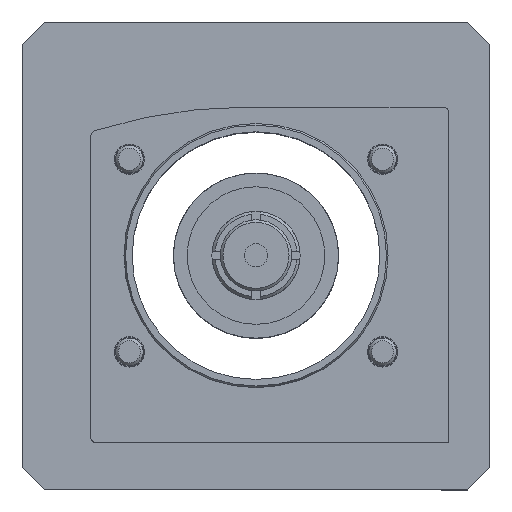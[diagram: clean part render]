
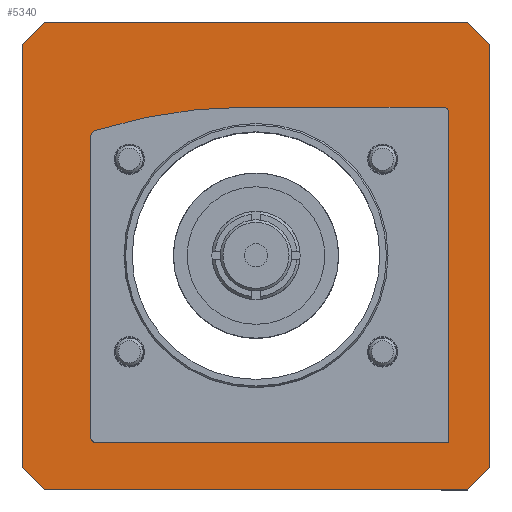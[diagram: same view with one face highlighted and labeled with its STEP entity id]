
A CAD part, top view. The second image highlights one B-rep face of the part: STEP entity #5340.
In plain terms, the highlighted planar face has unit normal (0, 0, 1).
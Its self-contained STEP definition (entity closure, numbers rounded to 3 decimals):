
#474=LINE($,#10865,#689);
#478=LINE($,#10873,#693);
#481=LINE($,#10889,#696);
#482=LINE($,#10891,#697);
#483=LINE($,#10893,#698);
#484=LINE($,#10895,#699);
#485=LINE($,#10897,#700);
#486=LINE($,#10898,#701);
#689=VECTOR($,#7469,5.657);
#693=VECTOR($,#7475,77.);
#696=VECTOR($,#7490,77.);
#697=VECTOR($,#7491,5.657);
#698=VECTOR($,#7492,77.);
#699=VECTOR($,#7493,5.657);
#700=VECTOR($,#7494,77.);
#701=VECTOR($,#7495,5.657);
#830=PLANE($,#6010);
#1022=FACE_BOUND($,#1767,.T.);
#1023=FACE_BOUND($,#1768,.T.);
#1024=FACE_BOUND($,#1769,.T.);
#1025=FACE_BOUND($,#1770,.T.);
#1026=FACE_BOUND($,#1771,.T.);
#1027=FACE_BOUND($,#1772,.T.);
#1767=EDGE_LOOP($,(#4720));
#1768=EDGE_LOOP($,(#4721));
#1769=EDGE_LOOP($,(#4722));
#1770=EDGE_LOOP($,(#4723));
#1771=EDGE_LOOP($,(#4724));
#1772=EDGE_LOOP($,(#4725,#4726,#4727,#4728,#4729,#4730,#4731,#4732));
#2193=CIRCLE($,#6011,24.289);
#2194=CIRCLE($,#6012,2.75);
#2195=CIRCLE($,#6013,2.75);
#2196=CIRCLE($,#6014,2.75);
#2197=CIRCLE($,#6015,2.75);
#2647=VERTEX_POINT($,#10863);
#2648=VERTEX_POINT($,#10864);
#2651=VERTEX_POINT($,#10872);
#2653=VERTEX_POINT($,#10878);
#2654=VERTEX_POINT($,#10880);
#2655=VERTEX_POINT($,#10882);
#2656=VERTEX_POINT($,#10884);
#2657=VERTEX_POINT($,#10886);
#2658=VERTEX_POINT($,#10888);
#2659=VERTEX_POINT($,#10890);
#2660=VERTEX_POINT($,#10892);
#2661=VERTEX_POINT($,#10894);
#2662=VERTEX_POINT($,#10896);
#3359=EDGE_CURVE($,#2647,#2648,#474,.T.);
#3363=EDGE_CURVE($,#2648,#2651,#478,.T.);
#3366=EDGE_CURVE($,#2653,#2653,#2193,.T.);
#3367=EDGE_CURVE($,#2654,#2654,#2194,.T.);
#3368=EDGE_CURVE($,#2655,#2655,#2195,.T.);
#3369=EDGE_CURVE($,#2656,#2656,#2196,.T.);
#3370=EDGE_CURVE($,#2657,#2657,#2197,.T.);
#3371=EDGE_CURVE($,#2658,#2647,#481,.T.);
#3372=EDGE_CURVE($,#2659,#2658,#482,.T.);
#3373=EDGE_CURVE($,#2660,#2659,#483,.T.);
#3374=EDGE_CURVE($,#2661,#2660,#484,.T.);
#3375=EDGE_CURVE($,#2662,#2661,#485,.T.);
#3376=EDGE_CURVE($,#2651,#2662,#486,.T.);
#4720=ORIENTED_EDGE($,*,*,#3366,.F.);
#4721=ORIENTED_EDGE($,*,*,#3367,.T.);
#4722=ORIENTED_EDGE($,*,*,#3368,.T.);
#4723=ORIENTED_EDGE($,*,*,#3369,.T.);
#4724=ORIENTED_EDGE($,*,*,#3370,.T.);
#4725=ORIENTED_EDGE($,*,*,#3359,.F.);
#4726=ORIENTED_EDGE($,*,*,#3371,.F.);
#4727=ORIENTED_EDGE($,*,*,#3372,.F.);
#4728=ORIENTED_EDGE($,*,*,#3373,.F.);
#4729=ORIENTED_EDGE($,*,*,#3374,.F.);
#4730=ORIENTED_EDGE($,*,*,#3375,.F.);
#4731=ORIENTED_EDGE($,*,*,#3376,.F.);
#4732=ORIENTED_EDGE($,*,*,#3363,.F.);
#5340=ADVANCED_FACE($,(#1022,#1023,#1024,#1025,#1026,#1027),#830,.T.);
#6010=AXIS2_PLACEMENT_3D($,#10877,#7478,#7479);
#6011=AXIS2_PLACEMENT_3D($,#10879,#7480,#7481);
#6012=AXIS2_PLACEMENT_3D($,#10881,#7482,#7483);
#6013=AXIS2_PLACEMENT_3D($,#10883,#7484,#7485);
#6014=AXIS2_PLACEMENT_3D($,#10885,#7486,#7487);
#6015=AXIS2_PLACEMENT_3D($,#10887,#7488,#7489);
#7469=DIRECTION($,(-0.707,0.707,0.));
#7475=DIRECTION($,(0.,1.,0.));
#7478=DIRECTION('center_axis',(0.,0.,1.));
#7479=DIRECTION('ref_axis',(1.,0.,0.));
#7480=DIRECTION('center_axis',(0.,0.,1.));
#7481=DIRECTION('ref_axis',(0.,-1.,0.));
#7482=DIRECTION('center_axis',(0.,0.,-1.));
#7483=DIRECTION('ref_axis',(-1.,0.,0.));
#7484=DIRECTION('center_axis',(0.,0.,-1.));
#7485=DIRECTION('ref_axis',(-1.,0.,0.));
#7486=DIRECTION('center_axis',(0.,0.,-1.));
#7487=DIRECTION('ref_axis',(-1.,0.,0.));
#7488=DIRECTION('center_axis',(0.,0.,-1.));
#7489=DIRECTION('ref_axis',(-1.,0.,0.));
#7490=DIRECTION($,(-1.,0.,0.));
#7491=DIRECTION($,(-0.707,-0.707,0.));
#7492=DIRECTION($,(0.,-1.,0.));
#7493=DIRECTION($,(0.707,-0.707,0.));
#7494=DIRECTION($,(1.,0.,0.));
#7495=DIRECTION($,(0.707,0.707,0.));
#10863=CARTESIAN_POINT('',(-38.5,-42.5,27.));
#10864=CARTESIAN_POINT('',(-42.5,-38.5,27.));
#10865=CARTESIAN_POINT($,(-40.5,-40.5,27.));
#10872=CARTESIAN_POINT('',(-42.5,38.5,27.));
#10873=CARTESIAN_POINT($,(-42.5,42.5,27.));
#10877=CARTESIAN_POINT('Origin',(0.,0.,
27.));
#10878=CARTESIAN_POINT('',(0.,24.289,27.));
#10879=CARTESIAN_POINT('Origin',(0.,0.,27.));
#10880=CARTESIAN_POINT('',(25.75,17.5,27.));
#10881=CARTESIAN_POINT('Origin',(23.,17.5,27.));
#10882=CARTESIAN_POINT('',(25.75,-17.5,27.));
#10883=CARTESIAN_POINT('Origin',(23.,-17.5,27.));
#10884=CARTESIAN_POINT('',(-20.25,-17.5,27.));
#10885=CARTESIAN_POINT('Origin',(-23.,-17.5,27.));
#10886=CARTESIAN_POINT('',(-20.25,17.5,27.));
#10887=CARTESIAN_POINT('Origin',(-23.,17.5,27.));
#10888=CARTESIAN_POINT('',(38.5,-42.5,27.));
#10889=CARTESIAN_POINT($,(-42.5,-42.5,27.));
#10890=CARTESIAN_POINT('',(42.5,-38.5,27.));
#10891=CARTESIAN_POINT($,(40.5,-40.5,27.));
#10892=CARTESIAN_POINT('',(42.5,38.5,27.));
#10893=CARTESIAN_POINT($,(42.5,-42.5,27.));
#10894=CARTESIAN_POINT('',(38.5,42.5,27.));
#10895=CARTESIAN_POINT($,(40.5,40.5,27.));
#10896=CARTESIAN_POINT('',(-38.5,42.5,27.));
#10897=CARTESIAN_POINT($,(42.5,42.5,27.));
#10898=CARTESIAN_POINT($,(-40.5,40.5,27.));
